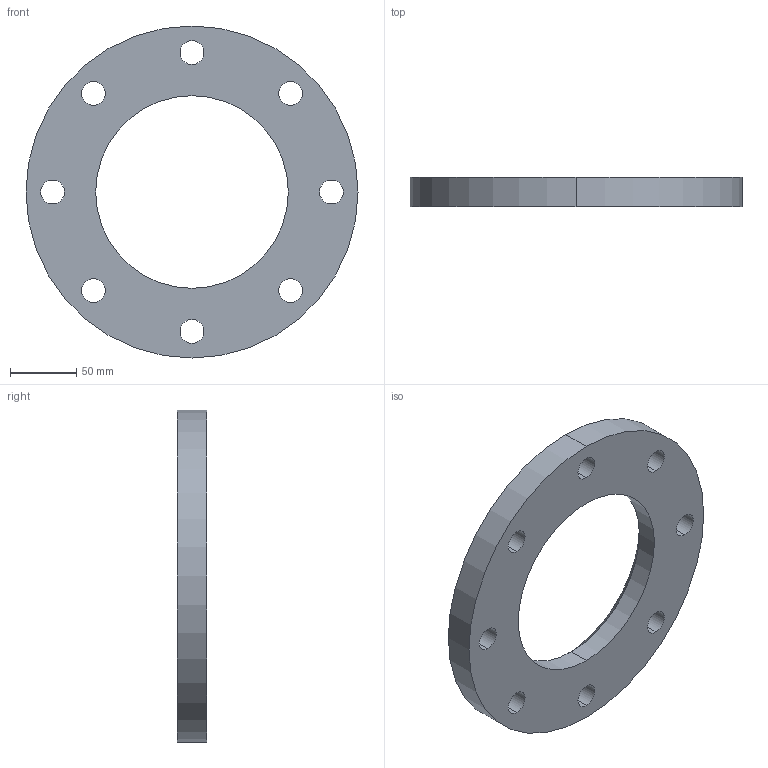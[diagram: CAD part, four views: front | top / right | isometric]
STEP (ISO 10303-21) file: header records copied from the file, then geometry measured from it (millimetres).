
FILE_DESCRIPTION (( 'STEP AP203' ), '1' );
FILE_NAME ('3D_R181-PN16_DN125_17605235_17606235.STEP', '2024-06-28T10:28:11', ( '' ), ( '' ), 'SwSTEP 2.0', 'SolidWorks 2024', '' );
FILE_SCHEMA (( 'CONFIG_CONTROL_DESIGN' ));
Length unit declared in the file: millimetre
Products named in the file (1): 3D_R181-PN16_DN125_17605235_17606235
Bounding box: 250 x 22 x 250 mm (x, y, z)
Volume: 663424.3 mm3; surface area: 96776.1 mm2
Topology: 1 solids, 1 shells, 24 faces, 64 edges, 42 vertices
Faces by surface type: cylinder 20, cone 2, plane 2
Entity records: 887 total; most frequent: DIRECTION 156, CARTESIAN_POINT 131, ORIENTED_EDGE 128, AXIS2_PLACEMENT_3D 67, EDGE_CURVE 64, VERTEX_POINT 42, CIRCLE 42, EDGE_LOOP 42
